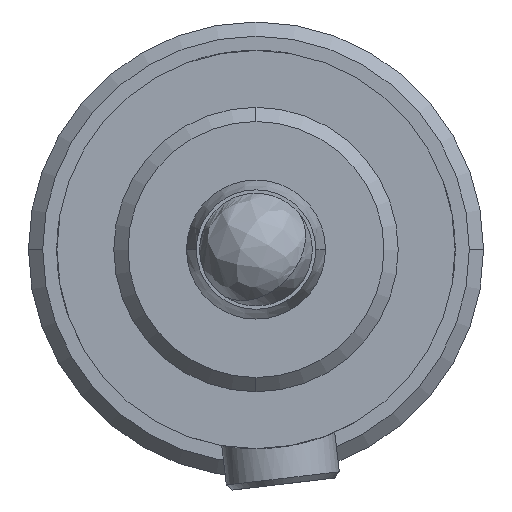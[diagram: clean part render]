
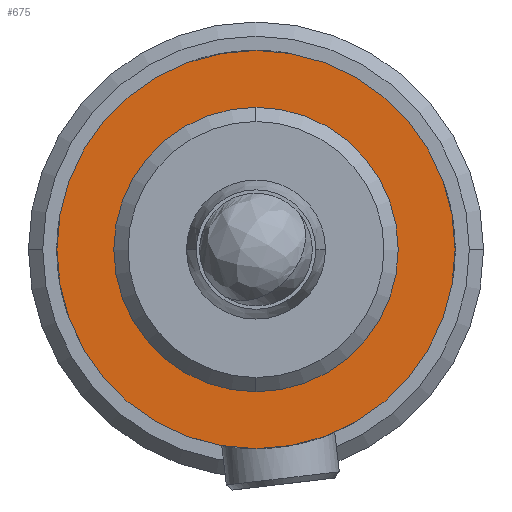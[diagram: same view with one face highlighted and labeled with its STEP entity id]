
A CAD part, left-side view. The second image highlights one B-rep face of the part: STEP entity #675.
In plain terms, the highlighted planar face has unit normal (-1, 0, 0).
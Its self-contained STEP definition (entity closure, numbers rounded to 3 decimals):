
#219 = EDGE_CURVE ( 'NONE', #220, #221, #2332, .T. ) ;
#220 = VERTEX_POINT ( 'NONE', #2384 ) ;
#221 = VERTEX_POINT ( 'NONE', #2383 ) ;
#274 = VERTEX_POINT ( 'NONE', #2630 ) ;
#275 = VERTEX_POINT ( 'NONE', #2629 ) ;
#356 = EDGE_CURVE ( 'NONE', #274, #275, #2747, .T. ) ;
#641 = EDGE_CURVE ( 'NONE', #275, #274, #3307, .T. ) ;
#675 = ADVANCED_FACE ( 'NONE', ( #3385, #3354 ), #3353, .T. ) ;
#676 = EDGE_LOOP ( 'NONE', ( #677, #730 ) ) ;
#677 = ORIENTED_EDGE ( 'NONE', *, *, #219, .F. ) ;
#678 = EDGE_LOOP ( 'NONE', ( #732, #733 ) ) ;
#730 = ORIENTED_EDGE ( 'NONE', *, *, #731, .F. ) ;
#731 = EDGE_CURVE ( 'NONE', #221, #220, #3562, .T. ) ;
#732 = ORIENTED_EDGE ( 'NONE', *, *, #641, .T. ) ;
#733 = ORIENTED_EDGE ( 'NONE', *, *, #356, .T. ) ;
#2332 = CIRCLE ( 'NONE', #2388, 7. ) ;
#2383 = CARTESIAN_POINT ( 'NONE',  ( -44.593, 122.297, -47.657 ) ) ;
#2384 = CARTESIAN_POINT ( 'NONE',  ( -44.593, 122.297, -61.657 ) ) ;
#2385 = DIRECTION ( 'NONE',  ( 0., 0., -1. ) ) ;
#2386 = DIRECTION ( 'NONE',  ( 1., 0., 0. ) ) ;
#2387 = CARTESIAN_POINT ( 'NONE',  ( -44.593, 122.297, -54.657 ) ) ;
#2388 = AXIS2_PLACEMENT_3D ( 'NONE', #2387, #2386, #2385 ) ;
#2629 = CARTESIAN_POINT ( 'NONE',  ( -44.593, 122.297, -50.257 ) ) ;
#2630 = CARTESIAN_POINT ( 'NONE',  ( -44.593, 122.297, -59.057 ) ) ;
#2738 = DIRECTION ( 'NONE',  ( 0., 0., 1. ) ) ;
#2739 = DIRECTION ( 'NONE',  ( 1., 0., 0. ) ) ;
#2740 = CARTESIAN_POINT ( 'NONE',  ( -44.593, 122.297, -54.657 ) ) ;
#2741 = AXIS2_PLACEMENT_3D ( 'NONE', #2740, #2739, #2738 ) ;
#2747 = CIRCLE ( 'NONE', #2741, 4.4 ) ;
#3302 = AXIS2_PLACEMENT_3D ( 'NONE', #3348, #3347, #3346 ) ;
#3307 = CIRCLE ( 'NONE', #3302, 4.4 ) ;
#3346 = DIRECTION ( 'NONE',  ( 0., 0., 1. ) ) ;
#3347 = DIRECTION ( 'NONE',  ( 1., 0., 0. ) ) ;
#3348 = CARTESIAN_POINT ( 'NONE',  ( -44.593, 122.297, -54.657 ) ) ;
#3349 = DIRECTION ( 'NONE',  ( 0., 0., 1. ) ) ;
#3350 = DIRECTION ( 'NONE',  ( -1., 0., 0. ) ) ;
#3351 = CARTESIAN_POINT ( 'NONE',  ( -44.593, 122.297, -54.657 ) ) ;
#3352 = AXIS2_PLACEMENT_3D ( 'NONE', #3351, #3350, #3349 ) ;
#3353 = PLANE ( 'NONE',  #3352 ) ;
#3354 = FACE_BOUND ( 'NONE', #678, .T. ) ;
#3385 = FACE_OUTER_BOUND ( 'NONE', #676, .T. ) ;
#3558 = DIRECTION ( 'NONE',  ( 0., 0., -1. ) ) ;
#3559 = DIRECTION ( 'NONE',  ( 1., 0., 0. ) ) ;
#3560 = CARTESIAN_POINT ( 'NONE',  ( -44.593, 122.297, -54.657 ) ) ;
#3561 = AXIS2_PLACEMENT_3D ( 'NONE', #3560, #3559, #3558 ) ;
#3562 = CIRCLE ( 'NONE', #3561, 7. ) ;
